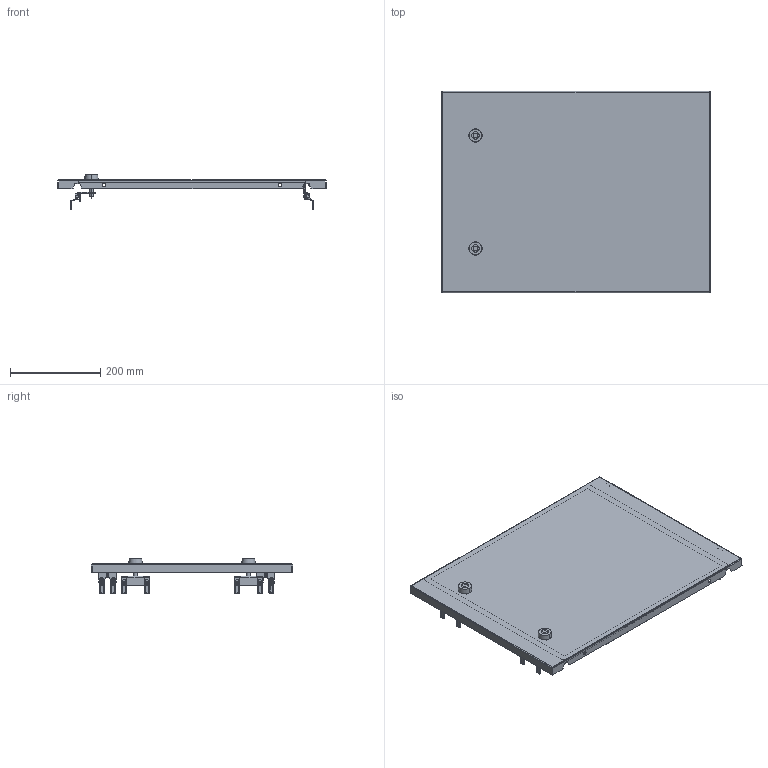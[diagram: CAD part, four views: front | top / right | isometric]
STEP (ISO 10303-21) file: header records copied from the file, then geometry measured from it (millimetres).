
FILE_DESCRIPTION(('CAx-IF Rec.Pracs.---Model Styling and Organization---1.2---2011-12-15','CAx-IF Rec.Pracs.---Geometric and Assembly Validation Properties---4.1---2014-06-16','CAx-IF Rec.Pracs.---PMI Polyline Presentation---2.0---2013-05-24'),'2;1');
FILE_NAME('R5M2WCPME9M.stp','2021-05-05T13:01:11+03:00',(''),(''),'STEP Interface 4.4 by CT CoreTechnologie','3D_Evolution4.4 by CT CoreTechnologie','');
FILE_SCHEMA(('AUTOMOTIVE_DESIGN { 1 0 10303 214 1 1 1 1 }'));
Length unit declared in the file: millimetre
Products named in the file (16): R5M2WCPME9M; AC00C745; M6 x 16-DIN 7991 ISR_thread; AC00C485; RB.0116.00.00.2_-00; MS737-1-1(1); MS737-1-1 Z_ ªàëâ; MS737-1-1 stop_fixed; RB.1586.00.00.0 ÑÁ_-03 (R5M2WCPME9M); RB.1586.00.01.0_-03 (R5M2WCPME9M); PF 7x14 MCC2.0_0450x0600; AC00C266; Ì6õ12-A5100231_straight; AC00C061_AC00C061; RB.0687.00.00.1_-00; MS737-1-1(2)
Assembly tree (35 placements, depth 3):
  R5M2WCPME9M
    AC00C745  x2
    M6 x 16-DIN 7991 ISR_thread  x8
    AC00C485  x8
    RB.0116.00.00.2_-00  x2
    MS737-1-1(1)
      MS737-1-1 Z_ ªàëâ
      MS737-1-1 stop_fixed
    RB.1586.00.00.0 ÑÁ_-03 (R5M2WCPME9M)
      RB.1586.00.01.0_-03 (R5M2WCPME9M)
      PF 7x14 MCC2.0_0450x0600
      AC00C266  x2
      Ì6õ12-A5100231_straight
      AC00C061_AC00C061
    RB.0687.00.00.1_-00  x2
    MS737-1-1(2)
      MS737-1-1 Z_ ªàëâ
      MS737-1-1 stop_fixed
Bounding box: 594 x 445 x 77.45 mm (x, y, z)
Surface area: 729296 mm2 (no closed solid volume)
Topology: 0 solids, 48 shells, 1550 faces, 3878 edges, 2404 vertices
Faces by surface type: plane 650, cylinder 606, bspline 294
Entity records: 20796 total; most frequent: CARTESIAN_POINT 6431, ORIENTED_EDGE 2806, DIRECTION 2788, EDGE_CURVE 1403, AXIS2_PLACEMENT_3D 973, VERTEX_POINT 890, VECTOR 842, LINE 842
